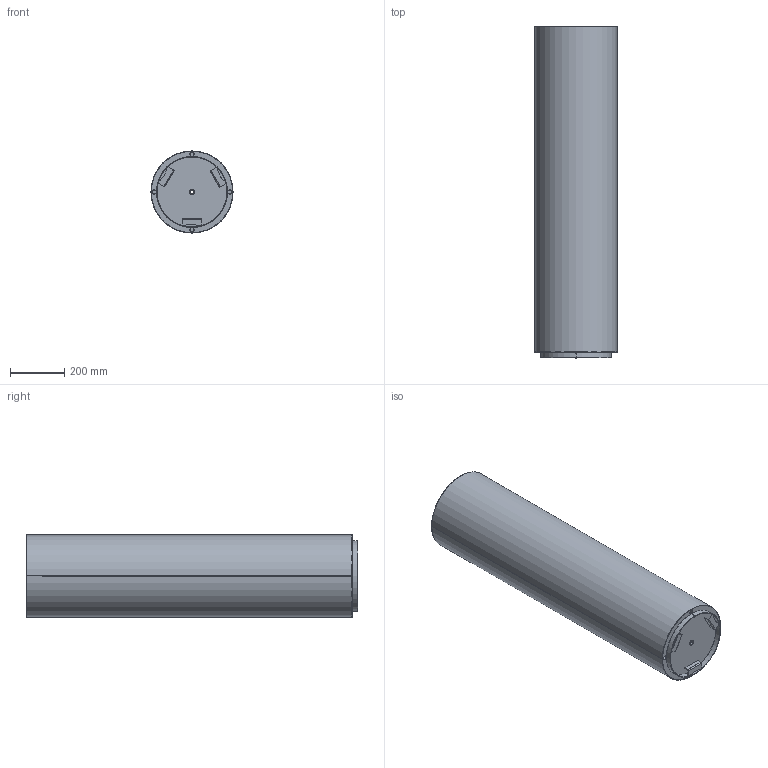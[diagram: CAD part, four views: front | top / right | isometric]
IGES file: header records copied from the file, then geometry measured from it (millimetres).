
Start section: SolidWorks IGES file using analytic representation for surfaces
Global section: file name: C:\VaultDeCastelli\Progetti\DC\PESO LEGGERO PRODOTTI\Ale\DeCastelli-3D-Cohiba slim 122.igs; native system: SolidWorks 2022; preprocessor: SolidWorks 2022; author: AlessandroP; date: 240802.102658; units: millimetre
Bounding box: 301.7 x 1220 x 301.7 mm (x, y, z)
Surface area: 2532799.3 mm2 (no closed solid volume)
Topology: 0 solids, 0 shells, 93 faces, 1837 edges, 1837 vertices
Faces by surface type: bspline 53, revolution 40
